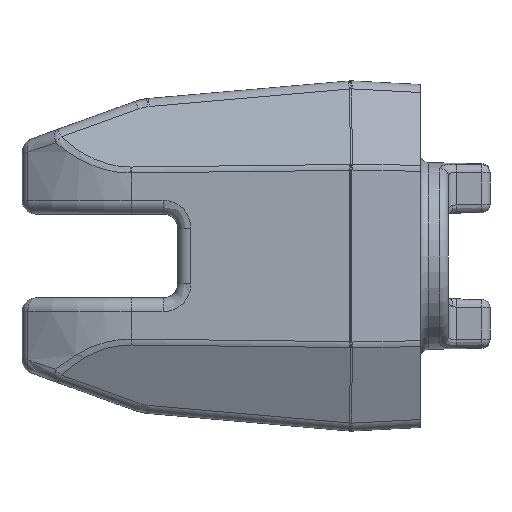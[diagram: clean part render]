
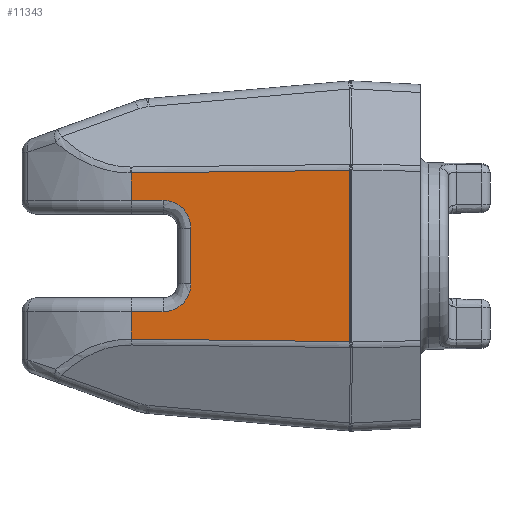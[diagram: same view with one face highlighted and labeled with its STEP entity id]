
A CAD part, left-side view. The second image highlights one B-rep face of the part: STEP entity #11343.
In plain terms, the highlighted planar face has unit normal (-0.999, 0.052, 0).
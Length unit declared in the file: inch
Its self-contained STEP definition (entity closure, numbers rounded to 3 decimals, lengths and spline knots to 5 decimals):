
#396 = EDGE_CURVE ( 'NONE', #3354, #9353, #11018, .T. ) ;
#477 =( BOUNDED_CURVE ( )  B_SPLINE_CURVE ( 3, ( #13314, #11137, #10177, #1815 ),
 .UNSPECIFIED., .F., .F. ) 
 B_SPLINE_CURVE_WITH_KNOTS ( ( 4, 4 ),
 ( 0., 1.5708 ),
 .UNSPECIFIED. ) 
 CURVE ( )  GEOMETRIC_REPRESENTATION_ITEM ( )  RATIONAL_B_SPLINE_CURVE ( ( 1., 0.805, 0.805, 1. ) ) 
 REPRESENTATION_ITEM ( '' )  );
#544 = CARTESIAN_POINT ( 'NONE',  ( -0.27963, 0.32386, -0.06243 ) ) ;
#1071 = EDGE_CURVE ( 'NONE', #4982, #11610, #9109, .T. ) ;
#1434 = VECTOR ( 'NONE', #8900, 39.37008 ) ;
#1471 = CARTESIAN_POINT ( 'NONE',  ( -0.29137, 0.0998, -0.1209 ) ) ;
#1527 = VERTEX_POINT ( 'NONE', #5050 ) ;
#1583 = VECTOR ( 'NONE', #9731, 39.37008 ) ;
#1589 = ORIENTED_EDGE ( 'NONE', *, *, #12785, .T. ) ;
#1759 = CARTESIAN_POINT ( 'NONE',  ( -0.27963, 0.32386, 0.03937 ) ) ;
#1815 = CARTESIAN_POINT ( 'NONE',  ( -0.27757, 0.36323, 0.07874 ) ) ;
#1818 = CARTESIAN_POINT ( 'NONE',  ( -0.27963, 0.32386, -0.03937 ) ) ;
#2032 =( BOUNDED_CURVE ( )  B_SPLINE_CURVE ( 3, ( #8705, #3607, #544, #9657 ),
 .UNSPECIFIED., .F., .F. ) 
 B_SPLINE_CURVE_WITH_KNOTS ( ( 4, 4 ),
 ( 4.71239, 6.28319 ),
 .UNSPECIFIED. ) 
 CURVE ( )  GEOMETRIC_REPRESENTATION_ITEM ( )  RATIONAL_B_SPLINE_CURVE ( ( 1., 0.805, 0.805, 1. ) ) 
 REPRESENTATION_ITEM ( '' )  );
#2380 = LINE ( 'NONE', #12991, #7403 ) ;
#2394 = DIRECTION ( 'NONE',  ( 0.999, -0.052, 0. ) ) ;
#2529 = DIRECTION ( 'NONE',  ( 0.052, 0.999, 0. ) ) ;
#2660 = ORIENTED_EDGE ( 'NONE', *, *, #8291, .T. ) ;
#2979 = EDGE_LOOP ( 'NONE', ( #13032, #8902, #9827, #2660, #6936, #5760, #1589, #12911, #12887, #10226 ) ) ;
#2984 = DIRECTION ( 'NONE',  ( 0., 0., -1. ) ) ;
#3140 = VERTEX_POINT ( 'NONE', #4876 ) ;
#3354 = VERTEX_POINT ( 'NONE', #1471 ) ;
#3607 = CARTESIAN_POINT ( 'NONE',  ( -0.27877, 0.34017, -0.07874 ) ) ;
#3842 = VERTEX_POINT ( 'NONE', #1759 ) ;
#3912 = VERTEX_POINT ( 'NONE', #11553 ) ;
#4574 = PLANE ( 'NONE',  #9214 ) ;
#4774 = DIRECTION ( 'NONE',  ( 0.052, 0.999, -0.012 ) ) ;
#4863 = VECTOR ( 'NONE', #2984, 39.37008 ) ;
#4876 = CARTESIAN_POINT ( 'NONE',  ( -0.27757, 0.36323, -0.07874 ) ) ;
#4982 = VERTEX_POINT ( 'NONE', #6169 ) ;
#5050 = CARTESIAN_POINT ( 'NONE',  ( -0.27521, 0.40812, 0.07874 ) ) ;
#5187 = CARTESIAN_POINT ( 'NONE',  ( -0.27521, 0.40812, -0.11732 ) ) ;
#5448 = DIRECTION ( 'NONE',  ( 0., 0., -1. ) ) ;
#5708 = VECTOR ( 'NONE', #2529, 39.37008 ) ;
#5760 = ORIENTED_EDGE ( 'NONE', *, *, #8108, .T. ) ;
#5801 = CARTESIAN_POINT ( 'NONE',  ( -0.2917, 0.09357, 0.12097 ) ) ;
#6169 = CARTESIAN_POINT ( 'NONE',  ( -0.27521, 0.40812, -0.07874 ) ) ;
#6403 = CARTESIAN_POINT ( 'NONE',  ( -0.29104, 0.10608, -0.12083 ) ) ;
#6673 = CARTESIAN_POINT ( 'NONE',  ( -0.27963, 0.32386, 0.54011 ) ) ;
#6801 = DIRECTION ( 'NONE',  ( 0., 0., -1. ) ) ;
#6864 = CARTESIAN_POINT ( 'NONE',  ( -0.29137, 0.0998, 0.54011 ) ) ;
#6877 = VERTEX_POINT ( 'NONE', #12230 ) ;
#6929 = EDGE_CURVE ( 'NONE', #1527, #6877, #10037, .T. ) ;
#6936 = ORIENTED_EDGE ( 'NONE', *, *, #396, .T. ) ;
#7403 = VECTOR ( 'NONE', #6801, 39.37008 ) ;
#7436 = EDGE_CURVE ( 'NONE', #3140, #4982, #12674, .T. ) ;
#8108 = EDGE_CURVE ( 'NONE', #9353, #3912, #8114, .T. ) ;
#8114 = LINE ( 'NONE', #5801, #8322 ) ;
#8291 = EDGE_CURVE ( 'NONE', #11610, #3354, #8648, .T. ) ;
#8322 = VECTOR ( 'NONE', #4774, 39.37008 ) ;
#8648 = LINE ( 'NONE', #6403, #1583 ) ;
#8705 = CARTESIAN_POINT ( 'NONE',  ( -0.27757, 0.36323, -0.07874 ) ) ;
#8721 = DIRECTION ( 'NONE',  ( 0.052, 0.999, 0. ) ) ;
#8900 = DIRECTION ( 'NONE',  ( 0., 0., 1. ) ) ;
#8902 = ORIENTED_EDGE ( 'NONE', *, *, #7436, .T. ) ;
#9109 = LINE ( 'NONE', #9252, #4863 ) ;
#9214 = AXIS2_PLACEMENT_3D ( 'NONE', #11784, #2394, #8721 ) ;
#9241 = EDGE_CURVE ( 'NONE', #3842, #12134, #12941, .T. ) ;
#9252 = CARTESIAN_POINT ( 'NONE',  ( -0.27521, 0.40812, 0.54011 ) ) ;
#9353 = VERTEX_POINT ( 'NONE', #13062 ) ;
#9657 = CARTESIAN_POINT ( 'NONE',  ( -0.27963, 0.32386, -0.03937 ) ) ;
#9731 = DIRECTION ( 'NONE',  ( -0.052, -0.999, -0.012 ) ) ;
#9827 = ORIENTED_EDGE ( 'NONE', *, *, #1071, .T. ) ;
#10037 = LINE ( 'NONE', #11067, #11001 ) ;
#10177 = CARTESIAN_POINT ( 'NONE',  ( -0.27877, 0.34017, 0.07874 ) ) ;
#10226 = ORIENTED_EDGE ( 'NONE', *, *, #9241, .T. ) ;
#10691 = CARTESIAN_POINT ( 'NONE',  ( -0.29144, 0.09843, -0.07874 ) ) ;
#10699 = EDGE_CURVE ( 'NONE', #3842, #6877, #477, .T. ) ;
#11001 = VECTOR ( 'NONE', #11272, 39.37008 ) ;
#11018 = LINE ( 'NONE', #6864, #1434 ) ;
#11067 = CARTESIAN_POINT ( 'NONE',  ( -0.29144, 0.09843, 0.07874 ) ) ;
#11137 = CARTESIAN_POINT ( 'NONE',  ( -0.27963, 0.32386, 0.06243 ) ) ;
#11272 = DIRECTION ( 'NONE',  ( -0.052, -0.999, 0. ) ) ;
#11343 = ADVANCED_FACE ( 'NONE', ( #12813 ), #4574, .F. ) ;
#11553 = CARTESIAN_POINT ( 'NONE',  ( -0.27521, 0.40812, 0.11732 ) ) ;
#11610 = VERTEX_POINT ( 'NONE', #5187 ) ;
#11774 = EDGE_CURVE ( 'NONE', #3140, #12134, #2032, .T. ) ;
#11784 = CARTESIAN_POINT ( 'NONE',  ( -0.29144, 0.09843, 0.54011 ) ) ;
#12134 = VERTEX_POINT ( 'NONE', #1818 ) ;
#12230 = CARTESIAN_POINT ( 'NONE',  ( -0.27757, 0.36323, 0.07874 ) ) ;
#12421 = VECTOR ( 'NONE', #5448, 39.37008 ) ;
#12674 = LINE ( 'NONE', #10691, #5708 ) ;
#12785 = EDGE_CURVE ( 'NONE', #3912, #1527, #2380, .T. ) ;
#12813 = FACE_OUTER_BOUND ( 'NONE', #2979, .T. ) ;
#12887 = ORIENTED_EDGE ( 'NONE', *, *, #10699, .F. ) ;
#12911 = ORIENTED_EDGE ( 'NONE', *, *, #6929, .T. ) ;
#12941 = LINE ( 'NONE', #6673, #12421 ) ;
#12991 = CARTESIAN_POINT ( 'NONE',  ( -0.27521, 0.40812, 0.54011 ) ) ;
#13032 = ORIENTED_EDGE ( 'NONE', *, *, #11774, .F. ) ;
#13062 = CARTESIAN_POINT ( 'NONE',  ( -0.29137, 0.0998, 0.1209 ) ) ;
#13314 = CARTESIAN_POINT ( 'NONE',  ( -0.27963, 0.32386, 0.03937 ) ) ;
